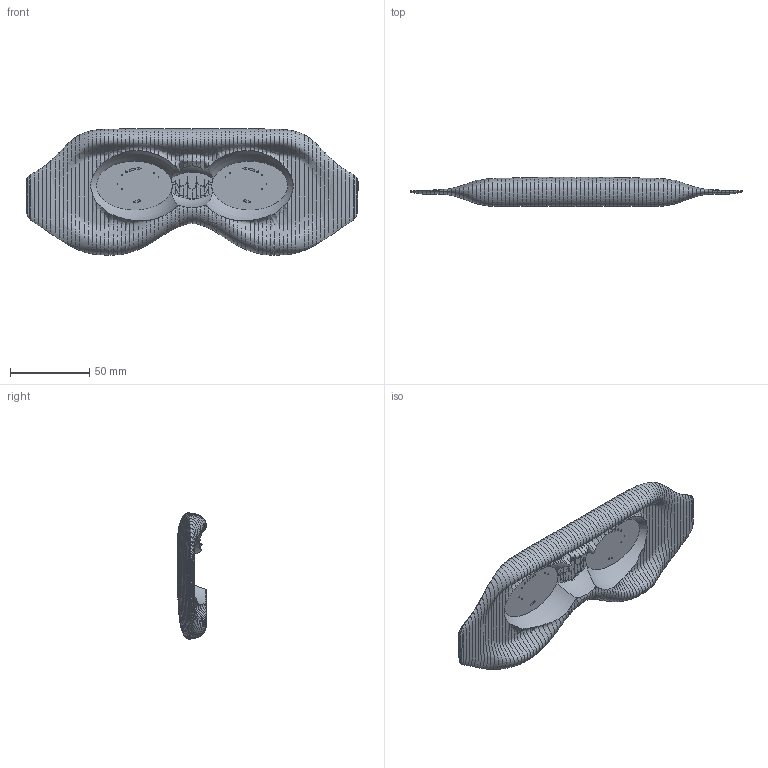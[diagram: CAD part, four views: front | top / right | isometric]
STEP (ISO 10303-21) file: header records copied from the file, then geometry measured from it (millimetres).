
FILE_DESCRIPTION(('FreeCAD Model'),'2;1');
FILE_NAME('Open CASCADE Shape Model','2026-09-15T22:36:34',('FreeCAD'),( 'FreeCAD'),'Open CASCADE STEP processor 7.8','FreeCAD','Unknown');
FILE_SCHEMA(('AUTOMOTIVE_DESIGN { 1 0 10303 214 1 1 1 1 }'));
Products named in the file (1): Open CASCADE STEP translator 7.8 1
Bounding box: 210 x 18.9 x 79.9 mm (x, y, z)
Volume: 88125.6 mm3; surface area: 32694.7 mm2
Topology: 1 solids, 1 shells, 148 faces, 396 edges, 267 vertices
Faces by surface type: bspline 142, plane 6
Entity records: 93054 total; most frequent: CARTESIAN_POINT 90548, ORIENTED_EDGE 792, EDGE_CURVE 396, B_SPLINE_CURVE_WITH_KNOTS 394, VERTEX_POINT 267, FACE_BOUND 165, EDGE_LOOP 165, ADVANCED_FACE 148
